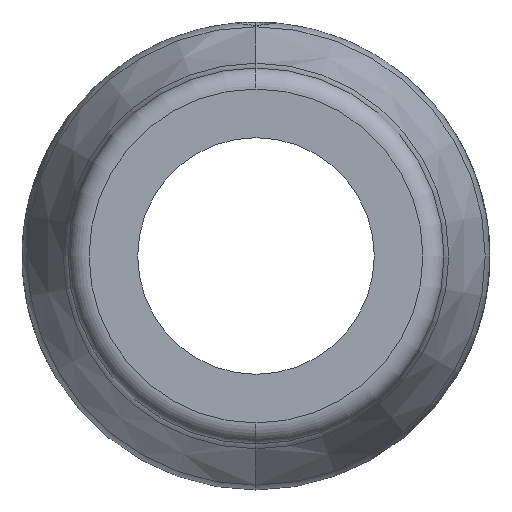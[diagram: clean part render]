
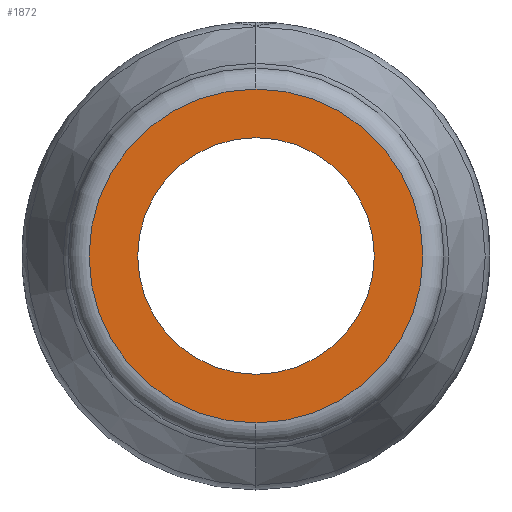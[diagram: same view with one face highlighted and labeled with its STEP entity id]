
A CAD part, left-side view. The second image highlights one B-rep face of the part: STEP entity #1872.
In plain terms, the highlighted planar face has unit normal (-1, 0, 0).
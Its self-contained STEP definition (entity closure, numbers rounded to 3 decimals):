
#14 = DIRECTION ( 'NONE',  ( -1., 0., 0. ) ) ;
#38 = ORIENTED_EDGE ( 'NONE', *, *, #1318, .T. ) ;
#128 = AXIS2_PLACEMENT_3D ( 'NONE', #384, #14, #398 ) ;
#222 = DIRECTION ( 'NONE',  ( 0., 0., 1. ) ) ;
#236 = FACE_OUTER_BOUND ( 'NONE', #1343, .T. ) ;
#269 = AXIS2_PLACEMENT_3D ( 'NONE', #1263, #1117, #222 ) ;
#287 = CARTESIAN_POINT ( 'NONE',  ( 0., 0., -45. ) ) ;
#293 = ORIENTED_EDGE ( 'NONE', *, *, #1106, .T. ) ;
#355 = CARTESIAN_POINT ( 'NONE',  ( 0., 0., -63.5 ) ) ;
#384 = CARTESIAN_POINT ( 'NONE',  ( 0., 0., 0. ) ) ;
#398 = DIRECTION ( 'NONE',  ( 0., 0., -1. ) ) ;
#439 = CIRCLE ( 'NONE', #1729, 45. ) ;
#498 = CARTESIAN_POINT ( 'NONE',  ( 0., 0., 63.5 ) ) ;
#500 = CARTESIAN_POINT ( 'NONE',  ( 0., 0., 0. ) ) ;
#510 = ORIENTED_EDGE ( 'NONE', *, *, #1825, .F. ) ;
#667 = DIRECTION ( 'NONE',  ( 0., 0., 1. ) ) ;
#673 = DIRECTION ( 'NONE',  ( 1., 0., 0. ) ) ;
#704 = CIRCLE ( 'NONE', #1171, 63.5 ) ;
#706 = EDGE_CURVE ( 'NONE', #1178, #1615, #439, .T. ) ;
#747 = VERTEX_POINT ( 'NONE', #355 ) ;
#800 = CIRCLE ( 'NONE', #269, 45. ) ;
#872 = ORIENTED_EDGE ( 'NONE', *, *, #706, .F. ) ;
#902 = AXIS2_PLACEMENT_3D ( 'NONE', #1573, #673, #1714 ) ;
#970 = FACE_BOUND ( 'NONE', #1675, .T. ) ;
#1106 = EDGE_CURVE ( 'NONE', #747, #1159, #1304, .T. ) ;
#1117 = DIRECTION ( 'NONE',  ( -1., 0., 0. ) ) ;
#1159 = VERTEX_POINT ( 'NONE', #498 ) ;
#1171 = AXIS2_PLACEMENT_3D ( 'NONE', #1867, #1873, #1939 ) ;
#1178 = VERTEX_POINT ( 'NONE', #287 ) ;
#1263 = CARTESIAN_POINT ( 'NONE',  ( 0., 0., 0. ) ) ;
#1304 = CIRCLE ( 'NONE', #128, 63.5 ) ;
#1318 = EDGE_CURVE ( 'NONE', #1159, #747, #704, .T. ) ;
#1343 = EDGE_LOOP ( 'NONE', ( #293, #38 ) ) ;
#1429 = PLANE ( 'NONE',  #902 ) ;
#1567 = DIRECTION ( 'NONE',  ( -1., 0., 0. ) ) ;
#1573 = CARTESIAN_POINT ( 'NONE',  ( 0., 45., 0. ) ) ;
#1615 = VERTEX_POINT ( 'NONE', #1621 ) ;
#1621 = CARTESIAN_POINT ( 'NONE',  ( 0., 0., 45. ) ) ;
#1675 = EDGE_LOOP ( 'NONE', ( #510, #872 ) ) ;
#1714 = DIRECTION ( 'NONE',  ( 0., 0., -1. ) ) ;
#1729 = AXIS2_PLACEMENT_3D ( 'NONE', #500, #1567, #667 ) ;
#1825 = EDGE_CURVE ( 'NONE', #1615, #1178, #800, .T. ) ;
#1867 = CARTESIAN_POINT ( 'NONE',  ( 0., 0., 0. ) ) ;
#1872 = ADVANCED_FACE ( 'NONE', ( #236, #970 ), #1429, .F. ) ;
#1873 = DIRECTION ( 'NONE',  ( -1., 0., 0. ) ) ;
#1939 = DIRECTION ( 'NONE',  ( 0., 0., -1. ) ) ;
